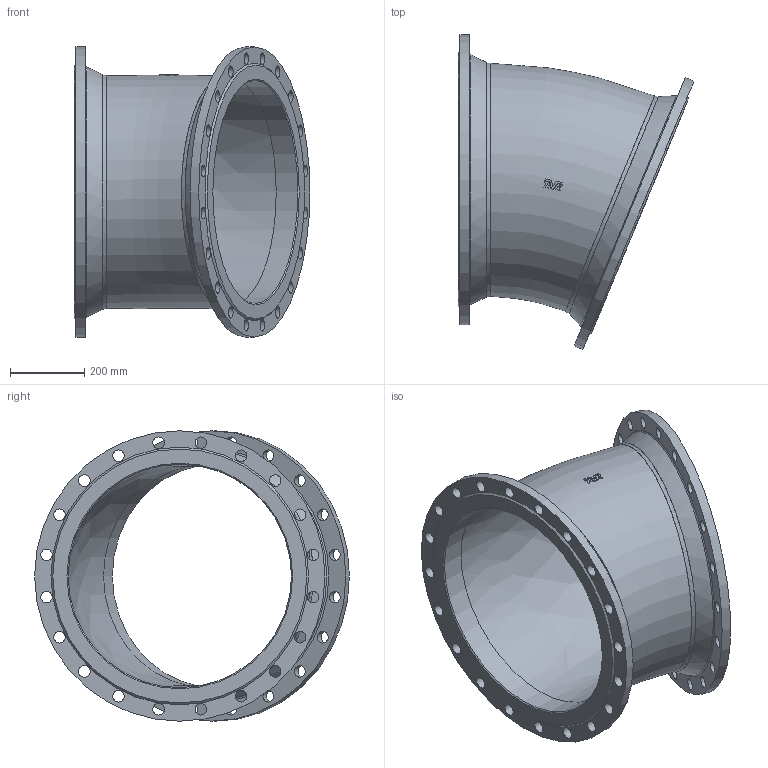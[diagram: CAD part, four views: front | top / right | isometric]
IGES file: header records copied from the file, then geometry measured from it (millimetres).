
Start section: SolidWorks IGES file using analytic representation for surfaces
Global section: file name: \\avksan2\techshare\PBM outline export from Enovia\O_712_0210_DN600_0X_REV01.igs; native system: SolidWorks 2022; preprocessor: SolidWorks 2022; author: pbm; date: 240815.143121; units: millimetre
Bounding box: 633.29 x 845.6 x 780 mm (x, y, z)
Surface area: 2640175.7 mm2 (no closed solid volume)
Topology: 0 solids, 0 shells, 103 faces, 510 edges, 454 vertices
Faces by surface type: revolution 60, bspline 43
